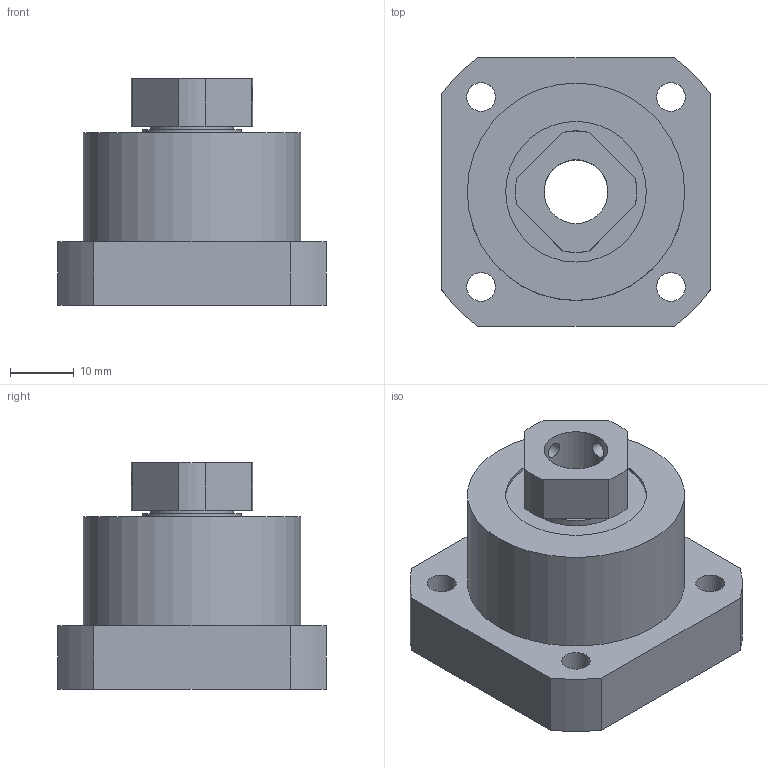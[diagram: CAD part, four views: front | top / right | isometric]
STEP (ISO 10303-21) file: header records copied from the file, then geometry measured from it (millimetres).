
FILE_DESCRIPTION(/* description */ (''),/* implementation_level */ '2;1');
FILE_NAME(/* name */ 'C:\Users\tenki620635\Desktop\官網\圖面\軸承座\3D\setp檔\FK10-Btype.stp',/* time_stamp */ '2020-12-18T19:55:46+08:00',/* author */ ('tenki620635'),/* organization */ (''),/* preprocessor_version */ 'ST-DEVELOPER v15.2',/* originating_system */ 'Autodesk Inventor 2014',/* authorisation */ '');
FILE_SCHEMA (('AUTOMOTIVE_DESIGN { 1 0 10303 214 3 1 1 }'));
Length unit declared in the file: millimetre
Products named in the file (1): FK10-Btype
Bounding box: 42 x 42 x 35.5 mm (x, y, z)
Volume: 29976 mm3; surface area: 9274.4 mm2
Topology: 1 solids, 1 shells, 46 faces, 105 edges, 71 vertices
Faces by surface type: cylinder 25, plane 21
Full cylindrical faces by diameter (mm): 2.459 x2, 4.5 x4, 8 x4, 10 x1, 13 x1, 15.5 x2, 22 x2, 34 x1
Entity records: 1375 total; most frequent: CARTESIAN_POINT 335, DIRECTION 218, ORIENTED_EDGE 168, AXIS2_PLACEMENT_3D 93, EDGE_LOOP 88, EDGE_CURVE 84, VERTEX_POINT 68, FACE_BOUND 53
